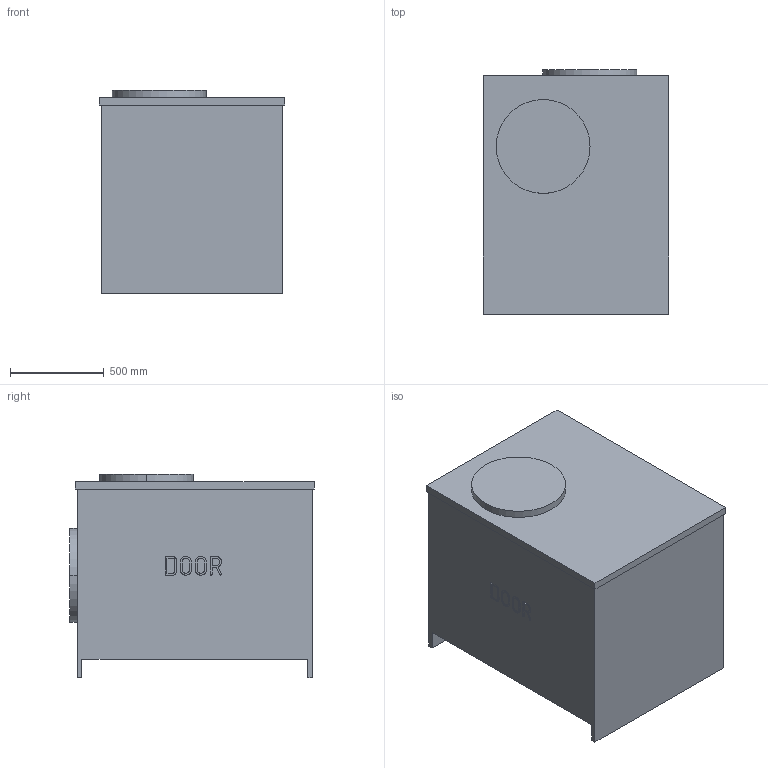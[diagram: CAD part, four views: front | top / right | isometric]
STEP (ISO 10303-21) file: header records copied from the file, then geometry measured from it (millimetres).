
FILE_DESCRIPTION(('STEP AP214'),'1');
FILE_NAME('Soundbox 450_500.stp','2019-11-26T10:20:13',(' '),(' '),'Spatial InterOp 3D',' ',' ');
FILE_SCHEMA(('AUTOMOTIVE_DESIGN { 1 0 10303 214 1 1 1 1 }'));
Length unit declared in the file: metre
Products named in the file (1): Solid1
Bounding box: 986 x 1302 x 1086 mm (x, y, z)
Volume: 1166400524.1 mm3; surface area: 7240067.4 mm2
Topology: 1 solids, 1 shells, 87 faces, 222 edges, 148 vertices
Faces by surface type: plane 50, extrusion 33, cylinder 4
Entity records: 2958 total; most frequent: CARTESIAN_POINT 939, ORIENTED_EDGE 444, DIRECTION 307, EDGE_CURVE 222, VECTOR 181, VERTEX_POINT 148, LINE 148, B_SPLINE_CURVE_WITH_KNOTS 99
